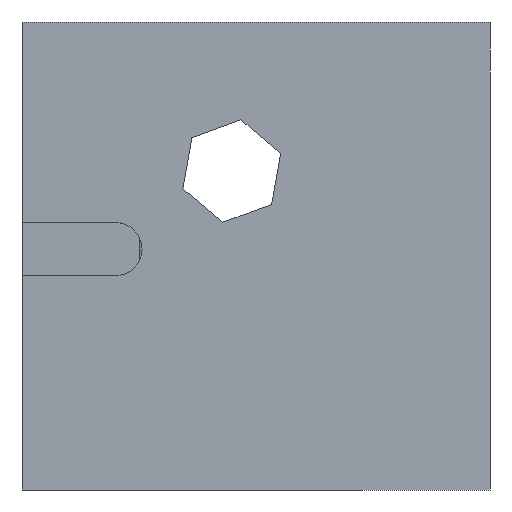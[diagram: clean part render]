
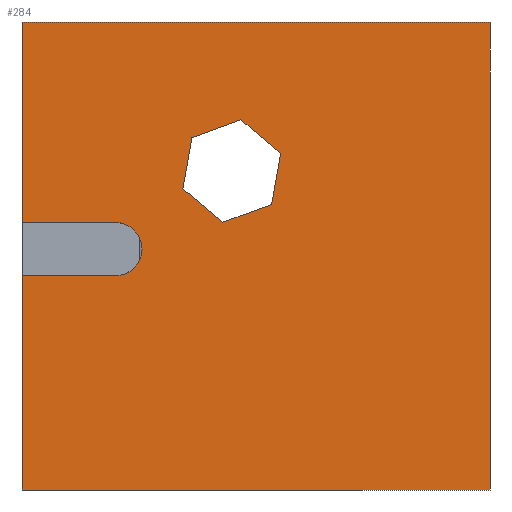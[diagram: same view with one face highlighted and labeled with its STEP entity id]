
A CAD part, front view. The second image highlights one B-rep face of the part: STEP entity #284.
In plain terms, the highlighted planar face has unit normal (0, -1, 0).
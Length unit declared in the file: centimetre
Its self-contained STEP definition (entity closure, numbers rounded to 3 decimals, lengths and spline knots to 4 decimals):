
#8 = VERTEX_POINT ( 'NONE', #1453 ) ;
#24 = VERTEX_POINT ( 'NONE', #219 ) ;
#26 = DIRECTION ( 'NONE',  ( 1., 0., 0. ) ) ;
#65 = DIRECTION ( 'NONE',  ( -0.94, 0., -0.341 ) ) ;
#78 = VERTEX_POINT ( 'NONE', #131 ) ;
#112 = LINE ( 'NONE', #2011, #1620 ) ;
#126 = EDGE_CURVE ( 'NONE', #24, #804, #112, .T. ) ;
#131 = CARTESIAN_POINT ( 'NONE',  ( 0., 0., 1000. ) ) ;
#135 = VERTEX_POINT ( 'NONE', #1393 ) ;
#146 = EDGE_CURVE ( 'NONE', #24, #8, #1043, .T. ) ;
#154 = CARTESIAN_POINT ( 'NONE',  ( 552.7412, 0., 719.4148 ) ) ;
#160 = VERTEX_POINT ( 'NONE', #721 ) ;
#168 = ORIENTED_EDGE ( 'NONE', *, *, #640, .T. ) ;
#216 = ORIENTED_EDGE ( 'NONE', *, *, #730, .F. ) ;
#219 = CARTESIAN_POINT ( 'NONE',  ( 0., 0., 458.0372 ) ) ;
#220 = CARTESIAN_POINT ( 'NONE',  ( 343.8236, 0., 643.5612 ) ) ;
#230 = ORIENTED_EDGE ( 'NONE', *, *, #895, .T. ) ;
#284 = ADVANCED_FACE ( 'NONE', ( #853, #389 ), #814, .F. ) ;
#303 = CARTESIAN_POINT ( 'NONE',  ( 1000., 0., 1000. ) ) ;
#309 = VECTOR ( 'NONE', #1291, 100. ) ;
#319 = EDGE_CURVE ( 'NONE', #2031, #981, #1443, .T. ) ;
#341 = CIRCLE ( 'NONE', #875, 56.716 ) ;
#371 = VERTEX_POINT ( 'NONE', #1751 ) ;
#376 = EDGE_CURVE ( 'NONE', #78, #1382, #983, .T. ) ;
#389 = FACE_OUTER_BOUND ( 'NONE', #1455, .T. ) ;
#397 = DIRECTION ( 'NONE',  ( 0.174, 0., 0.985 ) ) ;
#408 = ORIENTED_EDGE ( 'NONE', *, *, #677, .F. ) ;
#417 = DIRECTION ( 'NONE',  ( 0., 0., -1. ) ) ;
#418 = DIRECTION ( 'NONE',  ( 0., 0., -1. ) ) ;
#442 = VECTOR ( 'NONE', #397, 100. ) ;
#447 = EDGE_CURVE ( 'NONE', #701, #1787, #582, .T. ) ;
#468 = CARTESIAN_POINT ( 'NONE',  ( 428.8986, 0., 572.0606 ) ) ;
#504 = VECTOR ( 'NONE', #1939, 100. ) ;
#527 = CARTESIAN_POINT ( 'NONE',  ( 1000., 0., 0. ) ) ;
#564 = VECTOR ( 'NONE', #1654, 100. ) ;
#582 = LINE ( 'NONE', #1197, #564 ) ;
#598 = DIRECTION ( 'NONE',  ( 1., 0., 0. ) ) ;
#607 = CARTESIAN_POINT ( 'NONE',  ( 533.3574, 0., 609.9874 ) ) ;
#635 = DIRECTION ( 'NONE',  ( -1., 0., 0. ) ) ;
#640 = EDGE_CURVE ( 'NONE', #371, #2031, #788, .T. ) ;
#649 = VERTEX_POINT ( 'NONE', #1540 ) ;
#658 = CARTESIAN_POINT ( 'NONE',  ( 0., 0., 0. ) ) ;
#665 = CARTESIAN_POINT ( 'NONE',  ( 0., 0., 1000. ) ) ;
#677 = EDGE_CURVE ( 'NONE', #1382, #1615, #771, .T. ) ;
#701 = VERTEX_POINT ( 'NONE', #1307 ) ;
#721 = CARTESIAN_POINT ( 'NONE',  ( 199.8173, 0., 571.4693 ) ) ;
#730 = EDGE_CURVE ( 'NONE', #8, #160, #341, .T. ) ;
#736 = VECTOR ( 'NONE', #938, 100. ) ;
#771 = LINE ( 'NONE', #303, #736 ) ;
#772 = VECTOR ( 'NONE', #26, 100. ) ;
#773 = ORIENTED_EDGE ( 'NONE', *, *, #1509, .T. ) ;
#788 = LINE ( 'NONE', #468, #1371 ) ;
#804 = VERTEX_POINT ( 'NONE', #1082 ) ;
#812 = ORIENTED_EDGE ( 'NONE', *, *, #126, .T. ) ;
#814 = PLANE ( 'NONE',  #1207 ) ;
#824 = CARTESIAN_POINT ( 'NONE',  ( 0., 0., 1000. ) ) ;
#853 = FACE_BOUND ( 'NONE', #1795, .T. ) ;
#875 = AXIS2_PLACEMENT_3D ( 'NONE', #1923, #1908, #1146 ) ;
#878 = VECTOR ( 'NONE', #1827, 100. ) ;
#895 = EDGE_CURVE ( 'NONE', #804, #1615, #1000, .T. ) ;
#899 = CARTESIAN_POINT ( 'NONE',  ( 0., 0., 1000. ) ) ;
#938 = DIRECTION ( 'NONE',  ( 0., 0., -1. ) ) ;
#981 = VERTEX_POINT ( 'NONE', #1129 ) ;
#983 = LINE ( 'NONE', #824, #504 ) ;
#1000 = LINE ( 'NONE', #658, #772 ) ;
#1022 = ORIENTED_EDGE ( 'NONE', *, *, #1228, .T. ) ;
#1026 = ORIENTED_EDGE ( 'NONE', *, *, #146, .F. ) ;
#1043 = LINE ( 'NONE', #1996, #1342 ) ;
#1054 = CARTESIAN_POINT ( 'NONE',  ( 363.2074, 0., 752.9886 ) ) ;
#1082 = CARTESIAN_POINT ( 'NONE',  ( 0., 0., 0. ) ) ;
#1125 = ORIENTED_EDGE ( 'NONE', *, *, #376, .F. ) ;
#1129 = CARTESIAN_POINT ( 'NONE',  ( 363.2074, 0., 752.9886 ) ) ;
#1146 = DIRECTION ( 'NONE',  ( 0., 0., -1. ) ) ;
#1156 = CARTESIAN_POINT ( 'NONE',  ( 343.8236, 0., 643.5612 ) ) ;
#1197 = CARTESIAN_POINT ( 'NONE',  ( 467.6662, 0., 790.9154 ) ) ;
#1198 = ORIENTED_EDGE ( 'NONE', *, *, #1335, .F. ) ;
#1207 = AXIS2_PLACEMENT_3D ( 'NONE', #665, #1481, #1488 ) ;
#1228 = EDGE_CURVE ( 'NONE', #981, #701, #1394, .T. ) ;
#1249 = EDGE_CURVE ( 'NONE', #78, #649, #1378, .T. ) ;
#1254 = CARTESIAN_POINT ( 'NONE',  ( 199.8173, 0., 571.4693 ) ) ;
#1266 = LINE ( 'NONE', #154, #309 ) ;
#1274 = VECTOR ( 'NONE', #418, 100. ) ;
#1291 = DIRECTION ( 'NONE',  ( -0.174, 0., -0.985 ) ) ;
#1307 = CARTESIAN_POINT ( 'NONE',  ( 467.6662, 0., 790.9154 ) ) ;
#1335 = EDGE_CURVE ( 'NONE', #160, #649, #1866, .T. ) ;
#1342 = VECTOR ( 'NONE', #598, 100. ) ;
#1351 = ORIENTED_EDGE ( 'NONE', *, *, #1249, .T. ) ;
#1371 = VECTOR ( 'NONE', #2030, 100. ) ;
#1378 = LINE ( 'NONE', #899, #1274 ) ;
#1382 = VERTEX_POINT ( 'NONE', #1726 ) ;
#1390 = ORIENTED_EDGE ( 'NONE', *, *, #447, .T. ) ;
#1393 = CARTESIAN_POINT ( 'NONE',  ( 533.3574, 0., 609.9874 ) ) ;
#1394 = LINE ( 'NONE', #1054, #878 ) ;
#1443 = LINE ( 'NONE', #220, #442 ) ;
#1450 = LINE ( 'NONE', #607, #1473 ) ;
#1453 = CARTESIAN_POINT ( 'NONE',  ( 199.8173, 0., 458.0372 ) ) ;
#1455 = EDGE_LOOP ( 'NONE', ( #1351, #1198, #216, #1026, #812, #230, #408, #1125 ) ) ;
#1473 = VECTOR ( 'NONE', #65, 100. ) ;
#1481 = DIRECTION ( 'NONE',  ( 0., 1., 0. ) ) ;
#1488 = DIRECTION ( 'NONE',  ( 0., 0., 1. ) ) ;
#1497 = ORIENTED_EDGE ( 'NONE', *, *, #319, .T. ) ;
#1509 = EDGE_CURVE ( 'NONE', #135, #371, #1450, .T. ) ;
#1540 = CARTESIAN_POINT ( 'NONE',  ( 0., 0., 571.4693 ) ) ;
#1615 = VERTEX_POINT ( 'NONE', #527 ) ;
#1620 = VECTOR ( 'NONE', #417, 100. ) ;
#1628 = VECTOR ( 'NONE', #635, 100. ) ;
#1654 = DIRECTION ( 'NONE',  ( 0.766, 0., -0.643 ) ) ;
#1726 = CARTESIAN_POINT ( 'NONE',  ( 1000., 0., 1000. ) ) ;
#1751 = CARTESIAN_POINT ( 'NONE',  ( 428.8986, 0., 572.0606 ) ) ;
#1787 = VERTEX_POINT ( 'NONE', #1852 ) ;
#1795 = EDGE_LOOP ( 'NONE', ( #1390, #1961, #773, #168, #1497, #1022 ) ) ;
#1827 = DIRECTION ( 'NONE',  ( 0.94, 0., 0.341 ) ) ;
#1852 = CARTESIAN_POINT ( 'NONE',  ( 552.7412, 0., 719.4148 ) ) ;
#1864 = EDGE_CURVE ( 'NONE', #1787, #135, #1266, .T. ) ;
#1866 = LINE ( 'NONE', #1254, #1628 ) ;
#1908 = DIRECTION ( 'NONE',  ( 0., -1., 0. ) ) ;
#1923 = CARTESIAN_POINT ( 'NONE',  ( 199.8173, 0., 514.7533 ) ) ;
#1939 = DIRECTION ( 'NONE',  ( 1., 0., 0. ) ) ;
#1961 = ORIENTED_EDGE ( 'NONE', *, *, #1864, .T. ) ;
#1996 = CARTESIAN_POINT ( 'NONE',  ( 0., 0., 458.0372 ) ) ;
#2011 = CARTESIAN_POINT ( 'NONE',  ( 0., 0., 1000. ) ) ;
#2030 = DIRECTION ( 'NONE',  ( -0.766, 0., 0.643 ) ) ;
#2031 = VERTEX_POINT ( 'NONE', #1156 ) ;
